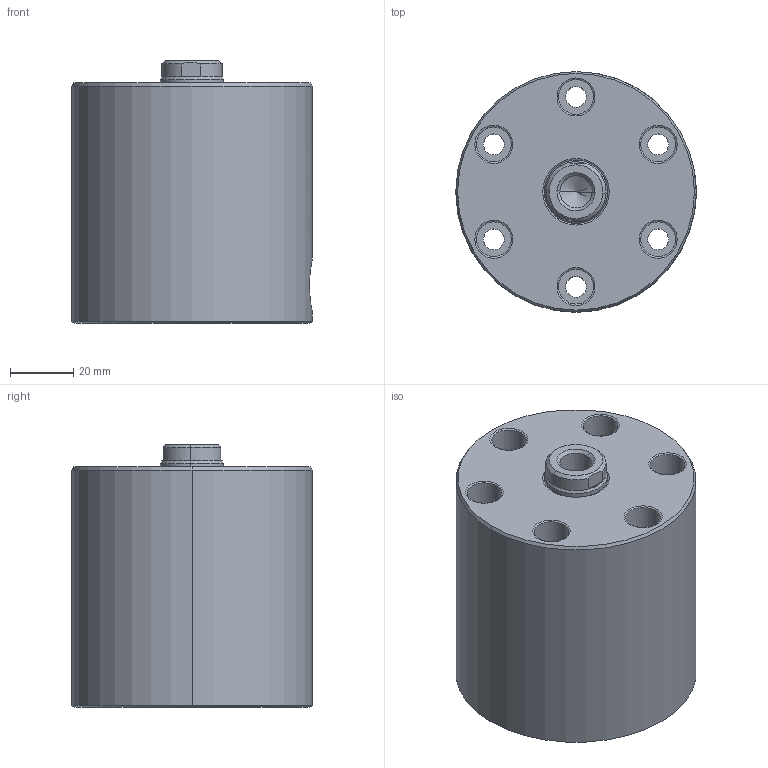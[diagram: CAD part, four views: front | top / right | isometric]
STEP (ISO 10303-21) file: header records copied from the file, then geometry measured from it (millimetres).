
FILE_DESCRIPTION (( 'STEP AP214' ), '1' );
FILE_NAME ('CO2C-7625.STEP', '2020-07-08T07:39:38', ( '' ), ( '' ), 'SwSTEP 2.0', 'SolidWorks 2019', '' );
FILE_SCHEMA (( 'AUTOMOTIVE_DESIGN' ));
Length unit declared in the file: millimetre
Products named in the file (3): CO2C-7625-BODY; CO2C-7625; CO2C-7625-PISTON
Assembly tree (2 placements, depth 2):
  CO2C-7625
    CO2C-7625-BODY
    CO2C-7625-PISTON
Bounding box: 76 x 76 x 83 mm (x, y, z)
Volume: 317236.3 mm3; surface area: 46086.6 mm2
Topology: 2 solids, 2 shells, 125 faces, 269 edges, 159 vertices
Faces by surface type: cylinder 54, cone 48, plane 23
Entity records: 3741 total; most frequent: CARTESIAN_POINT 752, DIRECTION 665, ORIENTED_EDGE 526, AXIS2_PLACEMENT_3D 278, EDGE_CURVE 263, VERTEX_POINT 159, EDGE_LOOP 154, CIRCLE 148
